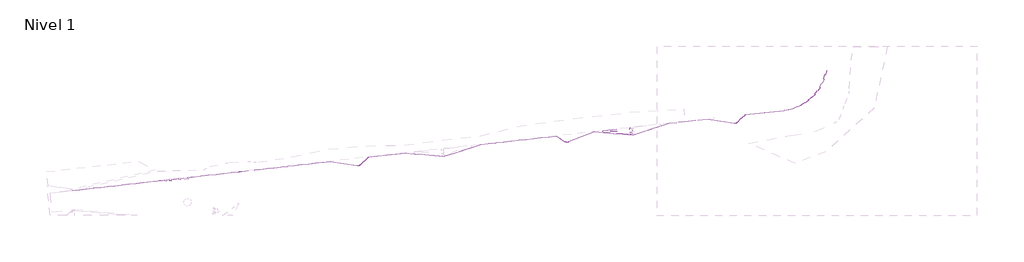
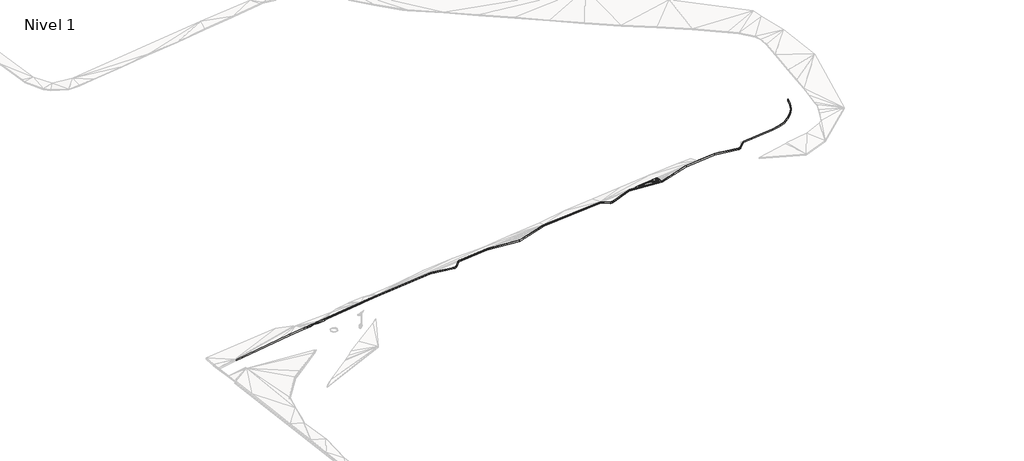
# One storey, part 17 of 45: 2 slabs.
"""IFC4 building model written with IfcOpenShell, lengths in millimetres."""

from ifc_helpers import new_model, si_unit, frame, origin, place, context, project, spatial, polyline, circle_curve, element, save
from ifc_brep_helpers import plane_surface, cylinder_surface, revolved_surface, spline_surface, advanced_brep

model = new_model("IFC4")

# Units and contexts
model_context = context("Model", 3, world=origin())
ifc_project = project(units=[si_unit("LENGTHUNIT", "METRE", prefix="MILLI")], contexts=[model_context])

# Site, building, storey
site = spatial("IfcSite", under=ifc_project)
building = spatial("IfcBuilding", under=site)
storey = spatial("IfcBuildingStorey", under=building, Name="Nivel 1", Elevation=0.0)

# Slabs
placement = place(None, origin())
element("IfcSlab", 1, ObjectType="Lippia", at=placement, inside=storey, context=model_context, shape_type="AdvancedBrep", body=[
    advanced_brep(
    [(-158534.3239063, -86433.6671601, 4450.0), (-158534.3239063, -86433.6671601, 4750.0), (-158434.0696434, -87321.3593961, 4750.0), (-158434.0696434, -87321.3593961, 4450.0), (-158974.9361947, -87875.5304223, 4750.0), (-158974.9361947, -87875.5304223, 4450.0), (-166011.2441823, -87276.3619655, 4750.0), (-166011.2441823, -87276.3619655, 4450.0), (-166016.8279711, -86778.6993142, 4450.0), (-166016.8279711, -86778.6993142, 4750.0), (-159085.0266239, -85995.9455052, 4750.0), (-159085.0266239, -85995.9455052, 4450.0), (-159117.4791214, -87189.0296243, 5050.0), (-159001.8934653, -86701.9804089, 5050.0), (-159117.4791214, -87189.0296243, 4750.0), (-159001.8934653, -86701.9804089, 4750.0), (-160839.1293, -87142.9666538, 5250.0), (-160576.1179062, -87264.5176161, 5250.0), (-160313.1065124, -87386.0685785, 5250.0), (-159968.2089129, -87229.0586351, 5250.0), (-160118.0455949, -86805.531657, 5250.0), (-160399.0017808, -86738.5560605, 5250.0), (-160631.0370495, -86683.2424519, 5250.0), (-160972.9110557, -86835.2265244, 5250.0), (-160839.1293, -87142.9666538, 4950.0), (-160972.9110557, -86835.2265244, 4950.0), (-160631.0370495, -86683.2424519, 4950.0), (-160399.0017808, -86738.5560605, 4950.0), (-160118.0455949, -86805.531657, 4950.0), (-159968.2089129, -87229.0586351, 4950.0), (-160313.1065124, -87386.0685785, 4950.0), (-160576.1179062, -87264.5176161, 4950.0), (-159276.4922979, -86396.2383704, 5050.0), (-159059.1444755, -86477.2147985, 5050.0), (-159276.4922979, -86396.2383704, 4750.0), (-159059.1444755, -86477.2147985, 4750.0), (-159321.3902191, -87489.8917525, 5050.0), (-159321.3902191, -87489.8917525, 4750.0), (-159675.1709573, -87573.1800784, 5050.0), (-162122.6779228, -87237.53023, 5050.0), (-162122.6779228, -87237.53023, 4750.0), (-159675.1709573, -87573.1800784, 4750.0), (-162118.8506074, -86741.6716435, 5050.0), (-162118.8506074, -86741.6716435, 4750.0), (-162338.7031107, -86987.929478, 5050.0), (-162338.7031107, -86987.929478, 4750.0)],
    [
        (0, 1),
        (1, 2),
        (2, 3),
        (3, 0),
        (2, 4, circle_curve(frame((-158930.9144955, -87377.4721033, 4750.0), z_axis=(0.0, 0.0, -1.0), x_axis=(0.19977727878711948, -0.9798413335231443, 0.0)), 499.9999992)),
        (4, 5),
        (5, 3, circle_curve(frame((-158930.9144955, -87377.4721033, 4450.0), z_axis=(0.0, 0.0, 1.0), x_axis=(0.19977727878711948, -0.9798413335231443, 0.0)), 499.9999992)),
        (4, 6),
        (6, 7),
        (7, 5),
        (8, 9),
        (9, 10),
        (10, 11),
        (11, 8),
        (10, 1, circle_curve(frame((-159030.7915935, -86492.9953635, 4750.0), z_axis=(0.0, 0.0, -1.0), x_axis=(0.19977727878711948, -0.9798413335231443, 0.0)), 500.0000001)),
        (0, 11, circle_curve(frame((-159030.7915935, -86492.9953635, 4450.0), z_axis=(0.0, 0.0, 1.0), x_axis=(0.19977727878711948, -0.9798413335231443, 0.0)), 500.0000001)),
        (2, 12),
        (12, 4),
        (1, 13),
        (13, 2),
        (5, 14),
        (14, 3),
        (3, 15),
        (15, 0),
        (16, 17),
        (17, 18),
        (18, 19),
        (19, 20),
        (20, 21),
        (21, 22),
        (22, 23),
        (23, 16),
        (24, 25),
        (25, 26),
        (26, 27),
        (27, 28),
        (28, 29),
        (29, 30),
        (30, 31),
        (31, 24),
        (20, 32),
        (32, 22),
        (10, 32),
        (32, 33),
        (33, 10),
        (19, 32),
        (26, 34),
        (34, 28),
        (11, 35),
        (35, 34),
        (34, 11),
        (34, 29),
        (32, 12),
        (12, 13),
        (13, 33),
        (19, 12),
        (12, 36),
        (36, 4),
        (35, 15),
        (15, 14),
        (14, 34),
        (14, 29),
        (5, 37),
        (37, 14),
        (4, 38),
        (38, 39),
        (39, 4),
        (19, 38),
        (38, 36),
        (36, 19),
        (5, 40),
        (40, 41),
        (41, 5),
        (29, 37),
        (37, 41),
        (41, 29),
        (22, 42),
        (42, 23),
        (23, 39),
        (39, 16),
        (39, 18),
        (25, 43),
        (43, 26),
        (24, 40),
        (40, 25),
        (30, 40),
        (42, 39),
        (40, 43),
        (1, 33),
        (35, 0),
        (10, 42),
        (42, 32),
        (42, 44),
        (44, 39),
        (18, 38),
        (34, 43),
        (43, 11),
        (40, 45),
        (45, 43),
        (41, 30),
        (6, 9, circle_curve(frame((-165990.032126, -87027.2591307, 4750.0), z_axis=(0.0, 0.0, -1.0), x_axis=(0.19977727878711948, -0.9798413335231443, 0.0)), 249.9999994)),
        (8, 7, circle_curve(frame((-165990.032126, -87027.2591307, 4450.0), z_axis=(0.0, 0.0, 1.0), x_axis=(0.19977727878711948, -0.9798413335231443, 0.0)), 249.9999994)),
        (9, 42),
        (9, 44),
        (6, 44),
        (6, 39),
        (43, 8),
        (45, 8),
        (45, 7),
        (40, 7),
    ],
    [
        plane_surface(frame((-158534.3239063, -86433.6671601, 4450.0), z_axis=(0.9936828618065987, 0.11222464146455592, 0.0), x_axis=(0.0, 0.0, 1.0))),
        cylinder_surface(frame((-158930.9144955, -87377.4721033, 4750.0), z_axis=(0.0, 0.0, -1.0), x_axis=(0.19977727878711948, -0.9798413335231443, 0.0)), 499.9999992),
        plane_surface(frame((-158974.9361947, -87875.5304223, 4450.0), z_axis=(-0.08484674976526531, -0.996394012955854, 0.0), x_axis=(0.0, 0.0, 1.0))),
        plane_surface(frame((-166016.8279711, -86778.6993142, 4450.0), z_axis=(-0.11220899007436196, 0.993684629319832, 0.0), x_axis=(0.0, 0.0, 1.0))),
        cylinder_surface(frame((-159030.7915935, -86492.9953635, 4750.0), z_axis=(0.0, 0.0, -1.0), x_axis=(0.19977727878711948, -0.9798413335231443, 0.0)), 500.0000001),
        spline_surface(2, 1, [[(-158974.9361947, -87875.5304223, 4750.0), (-159117.4791214, -87189.0296243, 5050.0)], [(-158738.72128110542, -87896.40866381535, 4750.0), (-159117.4791214, -87189.0296243, 5050.0)], [(-158573.0909333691, -87726.70311210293, 4750.0), (-159117.4791214, -87189.0296243, 5050.0)], [(-158407.46058563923, -87556.99756033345, 4750.0), (-159117.4791214, -87189.0296243, 5050.0)], [(-158434.0730654, -87321.3597826, 4750.0), (-159117.4791214, -87189.0296243, 5050.0)]], [3, 2, 3], [2, 2], [0.0, 1.0, 2.0], [0.0, 1.0], weights=[[1.0, 1.0], [0.9035324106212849, 0.9035324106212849], [1.0, 1.0], [0.9035324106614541, 0.9035324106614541], [1.0, 1.0]]),
        plane_surface(frame((-158656.7623383, -86819.0023217, 4850.0), z_axis=(0.5152351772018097, 0.058189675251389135, 0.8550711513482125), x_axis=(-0.11222464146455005, 0.9936828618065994, 0.0))),
        spline_surface(1, 2, [[(-158974.9361947, -87875.5304223, 4450.0), (-158738.72128110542, -87896.40866381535, 4450.0), (-158573.0909333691, -87726.70311210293, 4450.0), (-158407.46058563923, -87556.99756033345, 4450.0), (-158434.0730654, -87321.3597826, 4450.0)], [(-159117.4791214, -87189.0296243, 4750.0), (-159117.4791214, -87189.0296243, 4750.0), (-159117.4791214, -87189.0296243, 4750.0), (-159117.4791214, -87189.0296243, 4750.0), (-159117.4791214, -87189.0296243, 4750.0)]], [2, 2], [3, 2, 3], [0.0, 1.0], [0.0, 1.0, 2.0], weights=[[1.0, 0.9035324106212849, 1.0, 0.9035324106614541, 1.0], [1.0, 0.9035324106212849, 1.0, 0.9035324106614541, 1.0]]),
        plane_surface(frame((-158656.7623383, -86819.0023217, 4550.0), z_axis=(-0.5152351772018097, -0.058189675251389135, -0.8550711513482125), x_axis=(-0.11222464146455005, 0.9936828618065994, 0.0))),
        plane_surface(frame((-160473.7397376, -87013.6824168, 5250.0), z_axis=(0.0, 0.0, 1.0000000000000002), x_axis=(0.9077477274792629, -0.4195164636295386, 0.0))),
        plane_surface(frame((-160473.7397376, -87013.6824168, 4950.0), z_axis=(0.0, 0.0, -1.0000000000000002), x_axis=(0.9077477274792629, -0.4195164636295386, 0.0))),
        plane_surface(frame((-160008.5249807, -86628.3374931, 5183.3333333), z_axis=(0.0740750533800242, 0.3107377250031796, 0.9476048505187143), x_axis=(0.972742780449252, -0.23188678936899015, 0.0))),
        plane_surface(frame((-159140.2211324, -86289.799558, 4950.0), z_axis=(0.19608016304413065, 0.5262963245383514, 0.8273842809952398), x_axis=(-0.3574625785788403, -0.7473387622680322, 0.5600939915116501))),
        plane_surface(frame((-159787.5822686, -86810.2762208, 5183.3333333), z_axis=(0.19823354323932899, 0.0701316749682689, 0.9776425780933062), x_axis=(0.6282983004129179, 0.7564652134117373, -0.18166349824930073))),
        plane_surface(frame((-160008.5249807, -86628.3374931, 4883.3333333), z_axis=(-0.0740750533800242, -0.3107377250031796, -0.9476048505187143), x_axis=(0.972742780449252, -0.23188678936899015, 0.0))),
        plane_surface(frame((-159140.2211324, -86289.799558, 4650.0), z_axis=(-0.19608016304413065, -0.5262963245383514, -0.8273842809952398), x_axis=(-0.3574625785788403, -0.7473387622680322, 0.5600939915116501))),
        plane_surface(frame((-159787.5822686, -86810.2762208, 4883.3333333), z_axis=(-0.19823354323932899, -0.0701316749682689, -0.9776425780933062), x_axis=(0.6282983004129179, 0.7564652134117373, -0.18166349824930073))),
        plane_surface(frame((-159113.75234, -86691.1158005, 5050.0), z_axis=(0.0, 0.0, 1.0), x_axis=(0.19665708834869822, -0.9804723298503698, 0.0))),
        plane_surface(frame((-159454.0601107, -86938.1088766, 5116.6666667), z_axis=(0.22658973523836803, 0.04544797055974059, 0.9729293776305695), x_axis=(0.9724414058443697, 0.04575585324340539, -0.2286134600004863))),
        plane_surface(frame((-159137.9351784, -87518.1505997, 4950.0), z_axis=(0.4239290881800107, -0.28732046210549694, 0.8589127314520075), x_axis=(-0.18691010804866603, 0.9001775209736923, 0.393376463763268))),
        plane_surface(frame((-158851.14741, -87070.7898098, 4950.0), z_axis=(0.38536750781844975, -0.0914547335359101, 0.9182199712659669), x_axis=(-0.6364177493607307, 0.6942008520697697, 0.33624042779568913))),
        plane_surface(frame((-159113.75234, -86691.1158005, 4750.0), z_axis=(0.0, 0.0, -1.0), x_axis=(0.19665708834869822, -0.9804723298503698, 0.0))),
        plane_surface(frame((-159454.0601107, -86938.1088766, 4816.6666667), z_axis=(-0.22658973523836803, -0.04544797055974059, -0.9729293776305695), x_axis=(0.9724414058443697, 0.04575585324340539, -0.2286134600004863))),
        plane_surface(frame((-159137.9351784, -87518.1505997, 4650.0), z_axis=(-0.4239290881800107, 0.28732046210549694, -0.8589127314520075), x_axis=(-0.18691010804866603, 0.9001775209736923, 0.393376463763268))),
        plane_surface(frame((-158851.14741, -87070.7898098, 4650.0), z_axis=(-0.38536750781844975, 0.0914547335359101, -0.9182199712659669), x_axis=(-0.6364177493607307, 0.6942008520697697, 0.33624042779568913))),
        plane_surface(frame((-160257.595025, -87562.0802436, 4950.0), z_axis=(-0.11228174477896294, -0.8187411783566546, 0.5630769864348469), x_axis=(-0.8543614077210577, 0.36889980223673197, 0.36603213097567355))),
        plane_surface(frame((-159654.9233631, -87430.7101553, 5116.6666667), z_axis=(0.10205074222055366, -0.4334771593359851, 0.8953676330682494), x_axis=(0.5928847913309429, -0.6962387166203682, -0.4046470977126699))),
        plane_surface(frame((-160257.595025, -87562.0802436, 4650.0), z_axis=(0.11228174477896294, 0.8187411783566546, -0.5630769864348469), x_axis=(-0.8543614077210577, 0.36889980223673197, 0.36603213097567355))),
        plane_surface(frame((-159654.9233631, -87430.7101553, 4816.6666667), z_axis=(-0.10205074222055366, 0.4334771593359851, -0.8953676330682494), x_axis=(0.5928847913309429, -0.6962387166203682, -0.4046470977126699))),
        plane_surface(frame((-161240.9329042, -86753.3802066, 5183.3333333), z_axis=(-0.1386028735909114, 0.3117742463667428, 0.9399925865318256), x_axis=(0.9137717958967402, 0.40622789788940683, 0.0))),
        plane_surface(frame((-161311.5727595, -87071.9078027, 5183.3333333), z_axis=(-0.14897699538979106, -0.0647637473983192, 0.9867175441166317), x_axis=(-0.3986802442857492, 0.9170899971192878, 0.0))),
        plane_surface(frame((-161091.6379117, -87255.5218207, 5183.3333333), z_axis=(-0.12798666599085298, -0.2769369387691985, 0.9523262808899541), x_axis=(-0.9854694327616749, -0.07260302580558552, -0.15355389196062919))),
        plane_surface(frame((-161240.9329042, -86753.3802066, 4883.3333333), z_axis=(0.1386028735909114, -0.3117742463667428, -0.9399925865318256), x_axis=(0.9137717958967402, 0.40622789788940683, 0.0))),
        plane_surface(frame((-161311.5727595, -87071.9078027, 4883.3333333), z_axis=(0.14897699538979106, 0.0647637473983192, -0.9867175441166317), x_axis=(-0.3986802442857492, 0.9170899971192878, 0.0))),
        plane_surface(frame((-161091.6379117, -87255.5218207, 4883.3333333), z_axis=(0.12798666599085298, 0.2769369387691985, -0.9523262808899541), x_axis=(-0.9854694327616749, -0.07260302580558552, -0.15355389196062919))),
        plane_surface(frame((-161738.1465286, -86938.1427993, 5116.6666667), z_axis=(-0.1718251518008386, 0.001326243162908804, 0.9851265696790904), x_axis=(-0.9819385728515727, 0.08016578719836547, -0.17137702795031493))),
        plane_surface(frame((-161738.1465286, -86938.1427993, 4816.6666667), z_axis=(0.1718251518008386, -0.001326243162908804, -0.9851265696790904), x_axis=(-0.9819385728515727, 0.08016578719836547, -0.17137702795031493))),
        plane_surface(frame((-158865.1206157, -86537.6207892, 4950.0), z_axis=(0.4847281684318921, 0.12346718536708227, 0.8659067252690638), x_axis=(-0.8659261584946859, -0.07185129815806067, 0.49498411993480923))),
        spline_surface(2, 1, [[(-158534.3239063, -86433.6671601, 4750.0), (-159059.1444755, -86477.2147985, 5050.0)], [(-158593.04693133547, -85942.26370017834, 4750.0), (-159059.1444755, -86477.2147985, 5050.0)], [(-159085.0266239, -85995.9455052, 4750.0), (-159059.1444755, -86477.2147985, 5050.0)]], [3, 3], [2, 2], [0.0, 1.0], [0.0, 1.0], weights=[[1.0, 1.0], [0.7107223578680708, 0.7107223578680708], [1.0, 1.0]]),
        plane_surface(frame((-158865.1206157, -86537.6207892, 4650.0), z_axis=(-0.4847281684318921, -0.12346718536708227, -0.8659067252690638), x_axis=(-0.8659261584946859, -0.07185129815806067, 0.49498411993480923))),
        spline_surface(1, 2, [[(-158534.3239063, -86433.6671601, 4450.0), (-158593.04693133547, -85942.26370017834, 4450.0), (-159085.0266239, -85995.9455052, 4450.0)], [(-159059.1444755, -86477.2147985, 4750.0), (-159059.1444755, -86477.2147985, 4750.0), (-159059.1444755, -86477.2147985, 4750.0)]], [2, 2], [3, 3], [0.0, 1.0], [0.0, 1.0], weights=[[1.0, 0.7107223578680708, 1.0], [1.0, 0.7107223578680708, 1.0]]),
        plane_surface(frame((-159469.0260845, -87302.660004, 5116.6666667), z_axis=(0.23301685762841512, -0.15792856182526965, 0.9595632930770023), x_axis=(0.8914996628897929, -0.3595020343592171, -0.27565674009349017))),
        plane_surface(frame((-159469.0260845, -87302.660004, 4816.6666667), z_axis=(-0.23301685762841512, 0.15792856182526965, -0.9595632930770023), x_axis=(0.8914996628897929, -0.3595020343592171, -0.27565674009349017))),
        plane_surface(frame((-160160.1231764, -86377.9518397, 4950.0), z_axis=(-0.07545450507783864, 0.6208687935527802, 0.7802746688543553), x_axis=(-0.966647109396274, -0.23760574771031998, 0.09558699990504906))),
        plane_surface(frame((-162193.410547, -86989.0437838, 5050.0), z_axis=(0.0, 0.0, 1.0000000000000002), x_axis=(0.007718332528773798, 0.9999702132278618, 0.0))),
        plane_surface(frame((-159985.4954609, -87396.1024306, 5183.3333333), z_axis=(0.17320584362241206, -0.380474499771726, 0.9084266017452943), x_axis=(-0.9101294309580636, -0.4143240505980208, 0.0))),
        plane_surface(frame((-159323.832457, -87646.2007511, 4950.0), z_axis=(0.12618698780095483, -0.5359997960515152, 0.8347341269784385), x_axis=(-0.578430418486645, 0.6438520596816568, 0.5008720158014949))),
        plane_surface(frame((-160160.1231764, -86377.9518397, 4650.0), z_axis=(0.07545450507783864, -0.6208687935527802, -0.7802746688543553), x_axis=(-0.966647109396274, -0.23760574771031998, 0.09558699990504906))),
        plane_surface(frame((-162193.410547, -86989.0437838, 4750.0), z_axis=(0.0, 0.0, -1.0000000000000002), x_axis=(0.007718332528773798, 0.9999702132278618, 0.0))),
        plane_surface(frame((-159985.4954609, -87396.1024306, 4883.3333333), z_axis=(-0.17320584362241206, 0.380474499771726, -0.9084266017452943), x_axis=(-0.9101294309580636, -0.4143240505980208, 0.0))),
        plane_surface(frame((-159323.832457, -87646.2007511, 4650.0), z_axis=(-0.12618698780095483, 0.5359997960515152, -0.8347341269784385), x_axis=(-0.578430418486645, 0.6438520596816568, 0.5008720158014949))),
        plane_surface(frame((-160675.4599849, -86607.0508219, 5116.6666667), z_axis=(-0.10310957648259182, 0.8484253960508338, 0.5191750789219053), x_axis=(0.9682329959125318, 0.20515145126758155, -0.14296065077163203))),
        plane_surface(frame((-160675.4599849, -86607.0508219, 4816.6666667), z_axis=(0.10310957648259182, -0.8484253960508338, -0.5191750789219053), x_axis=(0.9682329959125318, 0.20515145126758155, -0.14296065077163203))),
        plane_surface(frame((-160703.6517975, -87398.9262956, 5116.6666667), z_axis=(-0.121838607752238, -0.8884283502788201, 0.44254990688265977), x_axis=(-0.9906559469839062, 0.0813178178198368, -0.109490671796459))),
        plane_surface(frame((-160703.6517975, -87398.9262956, 4816.6666667), z_axis=(0.121838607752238, 0.8884283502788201, -0.44254990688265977), x_axis=(-0.9906559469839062, 0.0813178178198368, -0.109490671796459))),
        cylinder_surface(frame((-165990.032126, -87027.2591307, 4750.0), z_axis=(0.0, 0.0, -1.0), x_axis=(0.19977727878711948, -0.9798413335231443, 0.0)), 249.9999994),
        plane_surface(frame((-162406.9017341, -86505.438821, 4850.0), z_axis=(-0.06726142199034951, 0.5956442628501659, 0.8004272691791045), x_axis=(-0.9936846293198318, -0.1122089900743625, 0.0))),
        plane_surface(frame((-163491.4605631, -86836.1001452, 4950.0), z_axis=(-0.07720443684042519, 0.06892608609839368, 0.9946299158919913), x_axis=(-0.997006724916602, -0.00947076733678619, -0.07673262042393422))),
        spline_surface(2, 1, [[(-166016.8279711, -86778.6993142, 4750.0), (-162338.7031107, -86987.929478, 5050.0)], [(-166242.5638565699, -86803.03463881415, 4750.0), (-162338.7031107, -86987.929478, 5050.0)], [(-166240.0163883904, -87030.06417085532, 4750.0), (-162338.7031107, -86987.929478, 5050.0)], [(-166237.46892024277, -87257.09370289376, 4750.0), (-162338.7031107, -86987.929478, 5050.0)], [(-166011.2438133, -87276.3576333, 4750.0), (-162338.7031107, -86987.929478, 5050.0)]], [3, 2, 3], [2, 2], [0.0, 1.0, 2.0], [0.0, 1.0], weights=[[1.0, 1.0], [0.7402773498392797, 0.7402773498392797], [1.0, 1.0], [0.740277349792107, 0.740277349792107], [1.0, 1.0]]),
        plane_surface(frame((-163490.8750719, -87167.2738912, 4950.0), z_axis=(-0.07609981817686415, -0.0658630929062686, 0.9949225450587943), x_axis=(-0.6544192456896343, 0.7561319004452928, 0.0))),
        plane_surface(frame((-162369.6194333, -87463.1408726, 4850.0), z_axis=(-0.053556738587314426, -0.6289411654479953, 0.7756060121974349), x_axis=(-0.9758236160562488, 0.1977848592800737, 0.09300225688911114))),
        plane_surface(frame((-162406.9017341, -86505.438821, 4550.0), z_axis=(0.06726142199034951, -0.5956442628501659, -0.8004272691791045), x_axis=(-0.9936846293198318, -0.1122089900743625, 0.0))),
        plane_surface(frame((-163491.4605631, -86836.1001452, 4650.0), z_axis=(0.07720443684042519, -0.06892608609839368, -0.9946299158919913), x_axis=(-0.997006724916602, -0.00947076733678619, -0.07673262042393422))),
        spline_surface(1, 2, [[(-166016.8279711, -86778.6993142, 4450.0), (-166242.5638565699, -86803.03463881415, 4450.0), (-166240.0163883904, -87030.06417085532, 4450.0), (-166237.46892024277, -87257.09370289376, 4450.0), (-166011.2438133, -87276.3576333, 4450.0)], [(-162338.7031107, -86987.929478, 4750.0), (-162338.7031107, -86987.929478, 4750.0), (-162338.7031107, -86987.929478, 4750.0), (-162338.7031107, -86987.929478, 4750.0), (-162338.7031107, -86987.929478, 4750.0)]], [2, 2], [3, 2, 3], [0.0, 1.0], [0.0, 1.0, 2.0], weights=[[1.0, 0.7402773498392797, 1.0, 0.740277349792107, 1.0], [1.0, 0.7402773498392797, 1.0, 0.740277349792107, 1.0]]),
        plane_surface(frame((-163490.8750719, -87167.2738912, 4650.0), z_axis=(0.07609981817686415, 0.0658630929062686, -0.9949225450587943), x_axis=(-0.6544192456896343, 0.7561319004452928, 0.0))),
        plane_surface(frame((-162369.6194333, -87463.1408726, 4550.0), z_axis=(0.053556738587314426, 0.6289411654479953, -0.7756060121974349), x_axis=(-0.9758236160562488, 0.1977848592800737, 0.09300225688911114))),
    ],
    [
        (0, [[1, 2, 3, 4]]),
        (1, [[-3, 5, 6, 7]]),
        (2, [[-6, 8, 9, 10]]),
        (3, [[11, 12, 13, 14]]),
        (4, [[-13, 15, -1, 16]]),
        (5, [[-5, 17, 18]]),
        (6, [[-2, 19, 20]]),
        (7, [[21, 22, -7]]),
        (8, [[23, 24, -4]]),
        (9, [[25, 26, 27, 28, 29, 30, 31, 32]]),
        (10, [[33, 34, 35, 36, 37, 38, 39, 40]]),
        (11, [[-29, 41, 42, -30]]),
        (12, [[43, 44, 45]]),
        (13, [[46, -41, -28]]),
        (14, [[-35, 47, 48, -36]]),
        (15, [[49, 50, 51]]),
        (16, [[-37, -48, 52]]),
        (17, [[53, 54, 55, -44]]),
        (18, [[56, -53, -46]]),
        (19, [[-18, 57, 58]]),
        (20, [[-20, -54, -17]]),
        (21, [[-50, 59, 60, 61]]),
        (22, [[-52, -61, 62]]),
        (23, [[63, 64, -21]]),
        (24, [[-22, -60, -23]]),
        (25, [[65, 66, 67]]),
        (26, [[68, 69, 70]]),
        (27, [[71, 72, 73]]),
        (28, [[74, 75, 76]]),
        (29, [[-31, 77, 78]]),
        (30, [[-32, 79, 80]]),
        (31, [[-80, 81, -26, -25]]),
        (32, [[82, 83, -34]]),
        (33, [[84, 85, -33]]),
        (34, [[-40, -39, 86, -84]]),
        (35, [[-78, 87, -79]]),
        (36, [[-85, 88, -82]]),
        (37, [[89, -55, -19]]),
        (38, [[-45, -89, -15]]),
        (39, [[-24, -59, 90]]),
        (40, [[-16, -90, -49]]),
        (41, [[-70, -57, -56]]),
        (42, [[-62, -64, -74]]),
        (43, [[91, 92, -43]]),
        (44, [[-87, 93, 94]]),
        (45, [[-27, 95, -68]]),
        (46, [[-58, -69, -65]]),
        (47, [[-51, 96, 97]]),
        (48, [[98, 99, -88]]),
        (49, [[-76, 100, -38]]),
        (50, [[-73, -75, -63]]),
        (51, [[-42, -92, -77]]),
        (52, [[-83, -96, -47]]),
        (53, [[-81, -66, -95]]),
        (54, [[-100, -72, -86]]),
        (55, [[-9, 101, -11, 102]]),
        (56, [[-12, 103, -91]]),
        (57, [[-103, 104, -93]]),
        (58, [[-104, -101, 105]]),
        (59, [[-94, -105, 106]]),
        (60, [[-67, -106, -8]]),
        (61, [[-97, 107, -14]]),
        (62, [[-99, 108, -107]]),
        (63, [[109, -102, -108]]),
        (64, [[110, -109, -98]]),
        (65, [[-10, -110, -71]]),
    ],
),
])
element("IfcSlab", 2, ObjectType="Bordillo", at=placement, inside=storey, context=model_context, shape_type="AdvancedBrep", body=[
    advanced_brep(
    [(-262086.3507826, -97626.5607096, 4635.9), (-262086.3507826, -97626.5607096, 5035.9), (-261341.9584895, -97542.5128797, 5051.6), (-256639.8556291, -97011.6079454, 5150.0093923), (-238079.1529226, -94915.9565011, 5150.0), (-238079.1529226, -94915.9565011, 4750.0), (-256639.855435, -97011.6079235, 4750.0), (-261341.9579071, -97542.5128139, 4651.5718231), (-230870.7024228, -95994.4989274, 5150.0), (-230870.7024228, -95994.4989274, 4750.0), (-230048.2835481, -95706.2110838, 4750.0), (-230048.2835481, -95706.2110838, 5150.0), (-228146.5474849, -93794.4860881, 5150.0), (-228146.5474849, -93794.4860881, 4750.0), (-218256.9006369, -92677.8660426, 5150.0), (-218256.9006369, -92677.8660426, 4750.0), (-208047.434525, -93545.752204, 5150.0), (-208047.434525, -93545.752204, 4750.0), (-198304.9550274, -90425.1321728, 5150.0), (-198304.9550274, -90425.1321728, 4750.0), (-178461.8157952, -88184.6834114, 4750.0), (-178461.8157952, -88184.6834114, 4350.0), (-176181.2896774, -89624.81125, 4750.0), (-176181.2896774, -89624.81125, 4350.0), (-175321.6375462, -89723.7919042, 4350.0), (-175321.6375462, -89723.7919042, 4750.0), (-168525.6236363, -87062.1479559, 4750.0), (-168525.6236363, -87062.1479559, 4350.0), (-158364.3554967, -87927.3974676, 4750.0), (-158364.3554967, -87927.3974676, 4350.0), (-148656.565981, -84819.4328706, 4750.0), (-148656.565981, -84819.4328706, 4350.0), (-144640.0088459, -84365.9315192, 4750.0), (-144640.0088459, -84365.9315192, 4350.0), (-138710.5297071, -83696.4460083, 4750.0), (-138710.5297071, -83696.4460083, 4350.0), (-131502.0568217, -84774.9930904, 4750.0), (-131502.0568217, -84774.9930904, 4350.0), (-130678.0934701, -84485.1151833, 4350.0), (-130678.0934701, -84485.1151833, 4750.0), (-128777.940236, -82574.9773961, 4750.0), (-128777.940236, -82574.9773961, 4350.0), (-118419.1283796, -81405.3848753, 4750.0), (-118419.1283796, -81405.3848753, 4350.0), (-107362.8341595, -70928.7793868, 4750.0), (-107362.8341595, -70928.7793868, 4350.0), (-107214.9025915, -70953.6037928, 4750.0), (-107214.9025915, -70953.6037928, 4350.0), (-118402.2991163, -81554.4378043, 4750.0), (-118402.2991163, -81554.4378043, 4350.0), (-128708.7204807, -82718.1150184, 4750.0), (-128708.7204807, -82718.1150184, 4350.0), (-130571.5140757, -84590.6653264, 4750.0), (-130571.5140757, -84590.6653264, 4350.0), (-131531.1450666, -84922.5818206, 4350.0), (-131531.1450666, -84922.5818206, 4750.0), (-138717.5028028, -83848.1864096, 4750.0), (-138717.5028028, -83848.1864096, 4350.0), (-148620.0508062, -84966.2630985, 4750.0), (-148620.0508062, -84966.2630985, 4350.0), (-158346.9537583, -88080.1897956, 4750.0), (-158346.9537583, -88080.1897956, 4350.0), (-168502.8412872, -87215.1614031, 4750.0), (-168502.8412872, -87215.1614031, 4350.0), (-175237.4029107, -89852.5086384, 4750.0), (-175237.4029107, -89852.5086384, 4350.0), (-176262.4992017, -89750.934853, 4350.0), (-176262.4992017, -89750.934853, 4750.0), (-178497.7659068, -88339.6955483, 4750.0), (-178497.7659068, -88339.6955483, 4350.0), (-198305.2031879, -90576.1132746, 5150.0), (-198305.2031879, -90576.1132746, 4750.0), (-208031.2629094, -93689.9454588, 5150.0), (-208031.2629094, -93689.9454588, 4750.0), (-218205.7588252, -92823.0448064, 5150.0), (-218205.7588252, -92823.0448064, 4750.0), (-228077.3448086, -93937.6256361, 5150.0), (-228077.3448086, -93937.6256361, 4750.0), (-229941.947202, -95812.0009047, 5150.0), (-229941.947202, -95812.0009047, 4750.0), (-230899.8683165, -96142.0776796, 4750.0), (-230899.8683165, -96142.0776796, 5150.0), (-238086.1272304, -95067.6970386, 5150.0), (-238086.1272304, -95067.6970386, 4750.0), (-256623.0261704, -97160.6608477, 5150.0), (-261325.1294191, -97691.5658258, 5051.5718069), (-262069.521518, -97775.6136338, 5035.9280625), (-262069.521518, -97775.6136338, 4635.9280625), (-261325.129225, -97691.5658039, 4651.5624146), (-256623.0263646, -97160.6608696, 4750.0093923), (-274160.3192275, -99140.761176, 4779.0369673), (-274160.3192275, -99140.761176, 4379.0369673), (-275324.6939131, -99523.8168292, 4785.3013105), (-275324.6939131, -99523.8168292, 4385.3013105), (-277411.4347839, -99759.4265707, 4728.8869417), (-277411.4347839, -99759.4265707, 4328.8869417), (-278631.907038, -99645.639182, 4674.4065109), (-278631.907038, -99645.639182, 4274.4065109), (-279796.2821969, -100028.6949801, 4665.529391), (-279796.2821969, -100028.6949801, 4265.529391), (-281068.2007539, -100172.3047615, 4633.801107), (-281068.2007539, -100172.3047615, 4233.801107), (-282288.8738536, -100058.5399086, 4586.7165154), (-282288.8738536, -100058.5399086, 4186.7165154), (-287307.6096924, -100625.1951809, 4465.4173154), (-306040.9861686, -102740.3428716, 3529.1119057), (-306040.9861686, -102740.3428716, 3129.1119057), (-287307.6093964, -100625.1951475, 4065.4023765), (-306057.815317, -102591.2899272, 3529.1023764), (-306057.815317, -102591.2899272, 3129.1023764), (-287324.4381923, -100476.1421664, 4465.3928707), (-282305.7032325, -99909.4869422, 4586.6942282), (-281113.0783122, -99774.8300721, 4633.7934149), (-279841.1605037, -99631.2204022, 4665.5098549), (-278648.7364315, -99496.5862095, 4674.3986952), (-277456.3128498, -99361.9520721, 4728.8969573), (-275369.5719508, -99126.3423734, 4785.2939881), (-274177.1483266, -98991.7082312, 4779.0324219), (-274177.1484922, -98991.70825, 4379.0), (-275369.5726081, -99126.3424476, 4385.2027344), (-277456.3134682, -99361.952142, 4328.9180358), (-278648.736853, -99496.5862571, 4274.4091282), (-279841.1602897, -99631.2203781, 4265.5039145), (-281113.0778404, -99774.8300189, 4233.7704354), (-282305.7041402, -99909.4870447, 4186.7197553), (-287324.4384064, -100476.1421905, 4065.3942282)],
    [
        (0, 1),
        (1, 2),
        (2, 3),
        (3, 4),
        (4, 5),
        (5, 6),
        (6, 7),
        (7, 0),
        (4, 8),
        (8, 9),
        (9, 5),
        (10, 11),
        (11, 12),
        (12, 13),
        (13, 10),
        (12, 14),
        (14, 15),
        (15, 13),
        (14, 16),
        (16, 17),
        (17, 15),
        (16, 18),
        (18, 19),
        (19, 17),
        (18, 20),
        (20, 21),
        (21, 19),
        (20, 22),
        (22, 23),
        (23, 21),
        (24, 25),
        (25, 26),
        (26, 27),
        (27, 24),
        (26, 28),
        (28, 29),
        (29, 27),
        (28, 30),
        (30, 31),
        (31, 29),
        (30, 32),
        (32, 33),
        (33, 31),
        (32, 34),
        (34, 35),
        (35, 33),
        (34, 36),
        (36, 37),
        (37, 35),
        (38, 39),
        (39, 40),
        (40, 41),
        (41, 38),
        (40, 42),
        (42, 43),
        (43, 41),
        (42, 44, circle_curve(frame((-119838.3964101, -68835.2544749, 4750.0), z_axis=(0.0, 0.0, 1.0), x_axis=(1.0, 0.0, 0.0)), 12650.0000009)),
        (44, 45),
        (45, 43, circle_curve(frame((-119838.3964101, -68835.2544749, 4350.0), z_axis=(0.0, 0.0, -1.0), x_axis=(1.0, 0.0, 0.0)), 12650.0000009)),
        (44, 46),
        (46, 47),
        (47, 45),
        (46, 48, circle_curve(frame((-119838.3964094, -68835.2544749, 4750.0), z_axis=(0.0, 0.0, -1.0), x_axis=(1.0, 0.0, 0.0)), 12800.0)),
        (48, 49),
        (49, 47, circle_curve(frame((-119838.3964094, -68835.2544749, 4350.0), z_axis=(0.0, 0.0, 1.0), x_axis=(1.0, 0.0, 0.0)), 12800.0)),
        (48, 50),
        (50, 51),
        (51, 49),
        (50, 52),
        (52, 53),
        (53, 51),
        (54, 55),
        (55, 56),
        (56, 57),
        (57, 54),
        (56, 58),
        (58, 59),
        (59, 57),
        (58, 60),
        (60, 61),
        (61, 59),
        (60, 62),
        (62, 63),
        (63, 61),
        (62, 64),
        (64, 65),
        (65, 63),
        (66, 67),
        (67, 68),
        (68, 69),
        (69, 66),
        (68, 70),
        (70, 71),
        (71, 69),
        (70, 72),
        (72, 73),
        (73, 71),
        (72, 74),
        (74, 75),
        (75, 73),
        (74, 76),
        (76, 77),
        (77, 75),
        (76, 78),
        (78, 79),
        (79, 77),
        (80, 81),
        (81, 82),
        (82, 83),
        (83, 80),
        (82, 84),
        (84, 85),
        (85, 86),
        (86, 87),
        (87, 88),
        (88, 89),
        (89, 83),
        (86, 90),
        (90, 91),
        (91, 87),
        (90, 92),
        (92, 93),
        (93, 91),
        (92, 94),
        (94, 95),
        (95, 93),
        (94, 96),
        (96, 97),
        (97, 95),
        (96, 98),
        (98, 99),
        (99, 97),
        (98, 100),
        (100, 101),
        (101, 99),
        (100, 102),
        (102, 103),
        (103, 101),
        (102, 104),
        (104, 105),
        (105, 106),
        (106, 107),
        (107, 103),
        (105, 108),
        (108, 109),
        (109, 106),
        (108, 110),
        (110, 111),
        (111, 112),
        (112, 113),
        (113, 114),
        (114, 115),
        (115, 116),
        (116, 117),
        (117, 1),
        (0, 118),
        (118, 119),
        (119, 120),
        (120, 121),
        (121, 122),
        (122, 123),
        (123, 124),
        (124, 125),
        (125, 109),
        (104, 110),
        (125, 107),
        (8, 11, circle_curve(frame((-230757.2426726, -95000.9563336, 5150.0), z_axis=(0.0, 0.0, 1.0), x_axis=(1.0, 0.0, 0.0)), 1000.0000003)),
        (10, 9, circle_curve(frame((-230757.2426726, -95000.9563336, 4750.0), z_axis=(0.0, 0.0, -1.0), x_axis=(1.0, 0.0, 0.0)), 1000.0000003)),
        (78, 81, circle_curve(frame((-230757.2426726, -95000.9563336, 5150.0), z_axis=(0.0, 0.0, -1.0), x_axis=(1.0, 0.0, 0.0)), 1150.0000003)),
        (80, 79, circle_curve(frame((-230757.2426726, -95000.9563336, 4750.0), z_axis=(0.0, 0.0, 1.0), x_axis=(1.0, 0.0, 0.0)), 1150.0000003)),
        (22, 25, circle_curve(frame((-175648.339713, -88778.6651517, 4750.0), z_axis=(0.0, 0.0, 1.0), x_axis=(1.0, 0.0, 0.0)), 999.9994421)),
        (24, 23, circle_curve(frame((-175648.339713, -88778.6651517, 4350.0), z_axis=(0.0, 0.0, -1.0), x_axis=(1.0, 0.0, 0.0)), 999.9994421)),
        (64, 67, circle_curve(frame((-175648.5652766, -88778.5228336, 4750.0), z_axis=(0.0, 0.0, -1.0), x_axis=(1.0, 0.0, 0.0)), 1149.9999999)),
        (66, 65, circle_curve(frame((-175648.5652766, -88778.5228336, 4350.0), z_axis=(0.0, 0.0, 1.0), x_axis=(1.0, 0.0, 0.0)), 1149.9999999)),
        (36, 39, circle_curve(frame((-131388.622766, -83781.4475628, 4750.0), z_axis=(0.0, 0.0, 1.0), x_axis=(1.0, 0.0, 0.0)), 1000.0000003)),
        (38, 37, circle_curve(frame((-131388.622766, -83781.4475628, 4350.0), z_axis=(0.0, 0.0, -1.0), x_axis=(1.0, 0.0, 0.0)), 1000.0000003)),
        (52, 55, circle_curve(frame((-131388.622766, -83781.4475628, 4750.0), z_axis=(0.0, 0.0, -1.0), x_axis=(1.0, 0.0, 0.0)), 1150.0000003)),
        (54, 53, circle_curve(frame((-131388.622766, -83781.4475628, 4350.0), z_axis=(0.0, 0.0, 1.0), x_axis=(1.0, 0.0, 0.0)), 1150.0000003)),
        (70, 18),
        (3, 84),
        (68, 18),
        (68, 20),
        (89, 6),
        (19, 71),
        (19, 69),
        (21, 69),
        (94, 115),
        (114, 96),
        (86, 117),
        (117, 90),
        (97, 121),
        (120, 95),
        (91, 118),
        (118, 87),
        (100, 112),
        (111, 102),
        (98, 113),
        (103, 124),
        (123, 101),
        (122, 99),
        (92, 116),
        (119, 93),
        (86, 1),
        (0, 87),
        (85, 1),
        (0, 88),
        (85, 2),
        (7, 88),
    ],
    [
        plane_surface(frame((-262086.3507826, -97626.5607096, 4350.0), z_axis=(-0.11219510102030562, 0.9936861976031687, 0.0), x_axis=(0.0, 0.0, 1.0))),
        plane_surface(frame((-238079.1529226, -94915.9565011, 4350.0), z_axis=(0.147974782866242, 0.9889911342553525, 0.0), x_axis=(0.0, 0.0, 1.0))),
        plane_surface(frame((-230048.2835481, -95706.2110838, 4350.0), z_axis=(-0.7089565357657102, 0.705252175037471, 0.0), x_axis=(0.0, 0.0, 1.0))),
        plane_surface(frame((-228146.5474849, -93794.4860881, 4350.0), z_axis=(-0.11219510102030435, 0.9936861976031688, 0.0), x_axis=(0.0, 0.0, 1.0))),
        plane_surface(frame((-218256.9006369, -92677.8660426, 4350.0), z_axis=(0.08470249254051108, 0.9964062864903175, 0.0), x_axis=(0.0, 0.0, 1.0))),
        plane_surface(frame((-208047.434525, -93545.752204, 4350.0), z_axis=(-0.30504408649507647, 0.95233823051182, 0.0), x_axis=(0.0, 0.0, 1.0))),
        plane_surface(frame((-198304.9550274, -90425.1321728, 4350.0), z_axis=(-0.1121951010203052, 0.9936861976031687, 0.0), x_axis=(0.0, 0.0, 1.0))),
        plane_surface(frame((-178461.8157952, -88184.6834114, 4350.0), z_axis=(0.5339388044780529, 0.8455231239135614, 0.0), x_axis=(0.0, 0.0, 1.0))),
        plane_surface(frame((-175321.6375462, -89723.7919042, 4350.0), z_axis=(-0.3646766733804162, 0.9311342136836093, 0.0), x_axis=(0.0, 0.0, 1.0))),
        plane_surface(frame((-168525.6236363, -87062.1479559, 4350.0), z_axis=(0.08484468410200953, 0.9963941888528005, 0.0), x_axis=(0.0, 0.0, 1.0))),
        plane_surface(frame((-158364.3554967, -87927.3974676, 4350.0), z_axis=(-0.30490671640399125, 0.9523822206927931, 0.0), x_axis=(0.0, 0.0, 1.0))),
        plane_surface(frame((-148656.565981, -84819.4328706, 4350.0), z_axis=(-0.11219510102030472, 0.9936861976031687, 0.0), x_axis=(0.0, 0.0, 1.0))),
        plane_surface(frame((-144640.0088459, -84365.9315192, 4350.0), z_axis=(-0.11219510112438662, 0.9936861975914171, 0.0), x_axis=(0.0, 0.0, 1.0))),
        plane_surface(frame((-138710.5297071, -83696.4460083, 4350.0), z_axis=(0.14797495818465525, 0.9889911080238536, 0.0), x_axis=(0.0, 0.0, 1.0))),
        plane_surface(frame((-130678.0934701, -84485.1151833, 4350.0), z_axis=(-0.7089572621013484, 0.7052514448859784, 0.0), x_axis=(0.0, 0.0, 1.0))),
        plane_surface(frame((-128777.940236, -82574.9773961, 4350.0), z_axis=(-0.1121951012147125, 0.9936861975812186, 0.0), x_axis=(0.0, 0.0, 1.0))),
        revolved_surface(polyline([(-107188.39640920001, -68835.2544749, 4750.0), (-107188.39640920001, -68835.2544749, 4350.0)]), (-119838.3964101, -68835.2544749, 4750.0), (0.0, 0.0, 1.0)),
        plane_surface(frame((-107362.8341595, -70928.7793868, 4350.0), z_axis=(0.16549603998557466, 0.9862104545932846, 0.0), x_axis=(0.0, 0.0, 1.0))),
        cylinder_surface(frame((-119838.3964094, -68835.2544749, 4750.0), z_axis=(0.0, 0.0, -1.0), x_axis=(1.0, 0.0, 0.0)), 12800.0),
        plane_surface(frame((-118402.2991163, -81554.4378043, 4350.0), z_axis=(0.11219510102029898, -0.9936861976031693, 0.0), x_axis=(0.0, 0.0, 1.0))),
        plane_surface(frame((-128708.7204807, -82718.1150184, 4350.0), z_axis=(0.708951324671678, -0.7052574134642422, 0.0), x_axis=(0.0, 0.0, 1.0))),
        plane_surface(frame((-131531.1450666, -84922.5818206, 4350.0), z_axis=(-0.1478615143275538, -0.9890080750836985, 0.0), x_axis=(0.0, 0.0, 1.0))),
        plane_surface(frame((-138717.5028028, -83848.1864096, 4350.0), z_axis=(0.11219510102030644, -0.9936861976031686, 0.0), x_axis=(0.0, 0.0, 1.0))),
        plane_surface(frame((-148620.0508062, -84966.2630985, 4350.0), z_axis=(0.3048927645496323, -0.9523866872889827, 0.0), x_axis=(0.0, 0.0, 1.0))),
        plane_surface(frame((-158346.9537583, -88080.1897956, 4350.0), z_axis=(-0.08486777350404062, -0.99639222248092, 0.0), x_axis=(0.0, 0.0, 1.0))),
        plane_surface(frame((-168502.8412872, -87215.1614031, 4350.0), z_axis=(0.36464921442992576, -0.9311449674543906, 0.0), x_axis=(0.0, 0.0, 1.0))),
        plane_surface(frame((-176262.4992017, -89750.934853, 4350.0), z_axis=(-0.5338555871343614, -0.8455756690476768, 0.0), x_axis=(0.0, 0.0, 1.0))),
        plane_surface(frame((-178497.7659068, -88339.6955483, 4350.0), z_axis=(0.11219510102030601, -0.9936861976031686, 0.0), x_axis=(0.0, 0.0, 1.0))),
        plane_surface(frame((-198305.2031879, -90576.1132746, 4350.0), z_axis=(0.3049083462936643, -0.9523816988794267, 0.0), x_axis=(0.0, 0.0, 1.0))),
        plane_surface(frame((-208031.2629094, -93689.9454588, 4350.0), z_axis=(-0.08489570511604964, -0.996389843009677, 0.0), x_axis=(0.0, 0.0, 1.0))),
        plane_surface(frame((-218205.7588252, -92823.0448064, 4350.0), z_axis=(0.11219510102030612, -0.9936861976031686, 0.0), x_axis=(0.0, 0.0, 1.0))),
        plane_surface(frame((-228077.3448086, -93937.6256361, 4350.0), z_axis=(0.7089525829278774, -0.7052561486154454, 0.0), x_axis=(0.0, 0.0, 1.0))),
        plane_surface(frame((-230899.8683165, -96142.0776796, 4350.0), z_axis=(-0.14786151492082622, -0.9890080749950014, 0.0), x_axis=(0.0, 0.0, 1.0))),
        plane_surface(frame((-238086.1272304, -95067.6970386, 4350.0), z_axis=(0.11219510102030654, -0.9936861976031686, 0.0), x_axis=(0.0, 0.0, 1.0))),
        plane_surface(frame((-262069.521518, -97775.6136338, 4350.0), z_axis=(0.11219510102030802, -0.9936861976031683, 0.0), x_axis=(0.0, 0.0, 1.0))),
        plane_surface(frame((-274160.3192275, -99140.761176, 4350.0), z_axis=(0.3125033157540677, -0.9499166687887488, 0.0), x_axis=(0.0, 0.0, 1.0))),
        plane_surface(frame((-275324.6940697, -99523.8168807, 4350.0), z_axis=(0.11219510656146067, -0.993686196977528, 0.0), x_axis=(0.0, 0.0, 1.0))),
        plane_surface(frame((-277411.4349443, -99759.4265888, 4350.0), z_axis=(-0.09282971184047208, -0.9956819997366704, 0.0), x_axis=(0.0, 0.0, 1.0))),
        plane_surface(frame((-278631.9071727, -99645.6391694, 4350.0), z_axis=(0.3125033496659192, -0.9499166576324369, 0.0), x_axis=(0.0, 0.0, 1.0))),
        plane_surface(frame((-279796.2822059, -100028.694983, 4350.0), z_axis=(0.1121951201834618, -0.9936861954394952, 0.0), x_axis=(0.0, 0.0, 1.0))),
        plane_surface(frame((-281068.2005111, -100172.3047341, 4350.0), z_axis=(-0.09279627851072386, -0.9956851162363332, 0.0), x_axis=(0.0, 0.0, 1.0))),
        plane_surface(frame((-282288.8741054, -100058.5398851, 4350.0), z_axis=(0.11219510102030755, -0.9936861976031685, 0.0), x_axis=(0.0, 0.0, 1.0))),
        plane_surface(frame((-306040.9860513, -102740.3428584, 4350.0), z_axis=(-0.9936861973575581, -0.11219510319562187, 0.0), x_axis=(0.0, 0.0, 1.0))),
        plane_surface(frame((-306057.815317, -102591.2899274, 4350.0), z_axis=(-0.11219510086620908, 0.9936861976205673, 0.0), x_axis=(0.0, 0.0, 1.0))),
        plane_surface(frame((-296682.7122979, -101608.2425315, 3997.2523823), z_axis=(-0.049297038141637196, -0.005502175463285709, 0.9987690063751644), x_axis=(0.1121951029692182, -0.9936861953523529, 6.352867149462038e-05))),
        plane_surface(frame((-296682.7122979, -101608.2425315, 3597.2523823), z_axis=(0.049297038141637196, 0.005502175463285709, -0.9987690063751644), x_axis=(0.1121951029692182, -0.9936861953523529, 6.352867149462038e-05))),
        revolved_surface(polyline([(-229757.2426723, -95000.9563336, 5150.0), (-229757.2426723, -95000.9563336, 4750.0)]), (-230757.2426726, -95000.9563336, 4750.0), (0.0, 0.0, 1.0)),
        cylinder_surface(frame((-230757.2426726, -95000.9563336, 4750.0), z_axis=(0.0, 0.0, -1.0), x_axis=(1.0, 0.0, 0.0)), 1150.0000003),
        revolved_surface(polyline([(-174648.3402709, -88778.6651517, 4750.0), (-174648.3402709, -88778.6651517, 4350.0)]), (-175648.339713, -88778.6651517, 4750.0), (0.0, 0.0, 1.0)),
        cylinder_surface(frame((-175648.5652766, -88778.5228336, 4750.0), z_axis=(0.0, 0.0, -1.0), x_axis=(1.0, 0.0, 0.0)), 1149.9999999),
        revolved_surface(polyline([(-130388.62276569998, -83781.4475628, 4750.0), (-130388.62276569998, -83781.4475628, 4350.0)]), (-131388.622766, -83781.4475628, 4750.0), (0.0, 0.0, 1.0)),
        cylinder_surface(frame((-131388.622766, -83781.4475628, 4750.0), z_axis=(0.0, 0.0, -1.0), x_axis=(1.0, 0.0, 0.0)), 1150.0000003),
        plane_surface(frame((-226035.2733276, -94330.0421259, 5150.0), z_axis=(0.0, 0.0, 1.0), x_axis=(0.9890080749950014, -0.14786151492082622, 0.0))),
        plane_surface(frame((-191702.641374, -89780.3136653, 5016.6666667), z_axis=(0.02019406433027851, -3.319203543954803e-05, 0.9997960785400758), x_axis=(0.9934861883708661, 0.11217251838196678, -0.02006289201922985))),
        plane_surface(frame((-185088.1789098, -88983.1703775, 4883.3333333), z_axis=(0.020695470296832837, -0.004799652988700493, 0.999774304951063), x_axis=(0.22592189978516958, 0.9741454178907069, 0.0))),
        plane_surface(frame((-146732.3112046, -84666.6793462, 4750.0), z_axis=(0.0, 0.0, 1.0), x_axis=(0.8455756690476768, -0.5338555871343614, 0.0))),
        plane_surface(frame((-226035.2733276, -94330.0421259, 4750.0), z_axis=(0.0, 0.0, -1.0), x_axis=(0.9890080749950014, -0.14786151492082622, 0.0))),
        plane_surface(frame((-191702.641374, -89780.3136653, 4616.6666667), z_axis=(-0.02019406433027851, 3.319203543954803e-05, -0.9997960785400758), x_axis=(0.9934861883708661, 0.11217251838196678, -0.02006289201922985))),
        plane_surface(frame((-185088.1789098, -88983.1703775, 4483.3333333), z_axis=(-0.020695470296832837, 0.004799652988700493, -0.999774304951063), x_axis=(0.22592189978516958, 0.9741454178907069, 0.0))),
        plane_surface(frame((-146732.3112046, -84666.6793462, 4350.0), z_axis=(0.0, 0.0, -1.0), x_axis=(0.8455756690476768, -0.5338555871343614, 0.0))),
        plane_surface(frame((-278037.0978863, -99565.9010141, 4701.6506268), z_axis=(-0.04507139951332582, -0.005106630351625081, 0.9989707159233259), x_axis=(0.9946998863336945, -0.09273814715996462, 0.044404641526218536))),
        plane_surface(frame((-270135.6630793, -98636.0276866, 4864.6550099), z_axis=(-0.021002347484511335, -0.00212337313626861, 0.9997771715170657), x_axis=(0.9934648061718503, 0.11217010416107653, 0.02110797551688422))),
        plane_surface(frame((-278037.0978863, -99565.9010141, 4301.6506268), z_axis=(0.04507139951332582, 0.005106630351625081, -0.9989707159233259), x_axis=(0.9946998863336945, -0.09273814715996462, 0.044404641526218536))),
        plane_surface(frame((-270135.6630793, -98636.0276866, 4464.6550099), z_axis=(0.021002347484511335, 0.00212337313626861, -0.9997771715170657), x_axis=(0.9934648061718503, 0.11217010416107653, 0.02110797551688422))),
        plane_surface(frame((-281693.9641389, -99978.7904195, 4610.2535882), z_axis=(-0.038941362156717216, -0.004418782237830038, 0.9992317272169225), x_axis=(0.99495210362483, -0.09272796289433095, 0.03836451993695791))),
        plane_surface(frame((-280454.6803867, -99901.7625483, 4649.655487), z_axis=(-0.024640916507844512, -0.002704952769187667, 0.9996927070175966), x_axis=(0.9933808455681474, 0.11216064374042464, 0.02478882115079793))),
        plane_surface(frame((-281693.9641389, -99978.7904195, 4210.2535882), z_axis=(0.038941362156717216, 0.004418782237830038, -0.9992317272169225), x_axis=(0.99495210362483, -0.09272796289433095, 0.03836451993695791))),
        plane_surface(frame((-280454.6803867, -99901.7625483, 4249.655487), z_axis=(0.024640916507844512, 0.002704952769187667, -0.9996927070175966), x_axis=(0.9933808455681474, 0.11216064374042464, 0.02478882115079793))),
        plane_surface(frame((-279229.5215201, -99700.5351845, 4669.9600623), z_axis=(-0.00737245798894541, -0.0007683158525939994, 0.999972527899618), x_axis=(0.9498917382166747, 0.3124951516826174, 0.007243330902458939))),
        plane_surface(frame((-279229.5215201, -99700.5351845, 4269.9600623), z_axis=(0.00737245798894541, 0.0007683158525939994, -0.999972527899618), x_axis=(0.9498917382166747, 0.3124951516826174, 0.007243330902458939))),
        plane_surface(frame((-276390.5035281, -99442.8844872, 4757.0904605), z_axis=(-0.02665785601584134, -0.003088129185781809, 0.9996398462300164), x_axis=(0.9933283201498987, 0.11215469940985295, 0.02683601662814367))),
        plane_surface(frame((-274757.9334751, -99195.6571746, 4782.151464), z_axis=(0.005081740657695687, 0.0008217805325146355, 0.9999867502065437), x_axis=(0.9499043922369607, 0.3124992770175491, -0.005084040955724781))),
        plane_surface(frame((-276390.5035281, -99442.8844872, 4357.0904605), z_axis=(0.02665785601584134, 0.003088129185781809, -0.9996398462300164), x_axis=(0.9933283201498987, 0.11215469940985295, 0.02683601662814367))),
        plane_surface(frame((-274757.9334751, -99195.6571746, 4382.151464), z_axis=(-0.005081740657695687, -0.0008217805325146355, -0.9999867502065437), x_axis=(0.9499043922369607, 0.3124992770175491, -0.005084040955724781))),
        plane_surface(frame((-266111.0069309, -98131.2941978, 4950.2760208), z_axis=(-0.020996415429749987, -0.002182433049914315, 0.9997771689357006), x_axis=(-0.11219509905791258, 0.9936861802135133, -0.00018708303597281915))),
        plane_surface(frame((-266111.0069309, -98131.2941978, 4550.2760208), z_axis=(0.020996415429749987, 0.002182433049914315, -0.9997771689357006), x_axis=(-0.11219509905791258, 0.9936861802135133, -0.00018708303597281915))),
        plane_surface(frame((-261827.0005085, -97697.9133824, 5041.130159), z_axis=(-0.02075493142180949, -0.002155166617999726, 0.9997822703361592), x_axis=(0.9934698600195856, 0.11217067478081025, 0.020865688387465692))),
        plane_surface(frame((-261827.0005085, -97697.9133824, 4641.130159), z_axis=(0.02075493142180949, 0.002155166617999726, -0.9997822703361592), x_axis=(0.9934698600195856, 0.11217067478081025, 0.020865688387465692))),
        plane_surface(frame((-261584.479499, -97620.213131, 5046.3541382), z_axis=(-0.02079286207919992, -0.0025997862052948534, 0.9997804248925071), x_axis=(0.9961642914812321, -0.08506820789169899, 0.02049644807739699))),
        plane_surface(frame((-261584.479499, -97620.213131, 4646.3541382), z_axis=(0.02079286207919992, 0.0025997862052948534, -0.9997804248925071), x_axis=(0.9961642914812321, -0.08506820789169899, 0.02049644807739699))),
        plane_surface(frame((-258982.49233, -97351.5868637, 5100.7906036), z_axis=(-0.02066680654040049, -0.0023334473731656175, 0.9997836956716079), x_axis=(0.9934712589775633, 0.11217083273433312, 0.02079812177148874))),
        plane_surface(frame((-258982.49233, -97351.5868637, 4700.7906036), z_axis=(0.02066680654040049, 0.0023334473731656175, -0.9997836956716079), x_axis=(0.9934712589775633, 0.11217083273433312, 0.02079812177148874))),
        plane_surface(frame((-284806.6563247, -100267.3410458, 4526.0557752), z_axis=(-0.02387559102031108, -0.002540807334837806, 0.9997117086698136), x_axis=(-0.11219509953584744, 0.9936861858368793, -0.00015400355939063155))),
        plane_surface(frame((-284806.6563247, -100267.3410458, 4126.0557752), z_axis=(0.02387559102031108, 0.002540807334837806, -0.9997117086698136), x_axis=(-0.11219509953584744, 0.9936861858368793, -0.00015400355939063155))),
    ],
    [
        (0, [[1, 2, 3, 4, 5, 6, 7, 8]]),
        (1, [[-5, 9, 10, 11]]),
        (2, [[12, 13, 14, 15]]),
        (3, [[-14, 16, 17, 18]]),
        (4, [[-17, 19, 20, 21]]),
        (5, [[-20, 22, 23, 24]]),
        (6, [[-23, 25, 26, 27]]),
        (7, [[-26, 28, 29, 30]]),
        (8, [[31, 32, 33, 34]]),
        (9, [[-33, 35, 36, 37]]),
        (10, [[-36, 38, 39, 40]]),
        (11, [[-39, 41, 42, 43]]),
        (12, [[-42, 44, 45, 46]]),
        (13, [[-45, 47, 48, 49]]),
        (14, [[50, 51, 52, 53]]),
        (15, [[-52, 54, 55, 56]]),
        (16, [[-55, 57, 58, 59]]),
        (17, [[-58, 60, 61, 62]]),
        (18, [[-61, 63, 64, 65]]),
        (19, [[-64, 66, 67, 68]]),
        (20, [[-67, 69, 70, 71]]),
        (21, [[72, 73, 74, 75]]),
        (22, [[-74, 76, 77, 78]]),
        (23, [[-77, 79, 80, 81]]),
        (24, [[-80, 82, 83, 84]]),
        (25, [[-83, 85, 86, 87]]),
        (26, [[88, 89, 90, 91]]),
        (27, [[-90, 92, 93, 94]]),
        (28, [[-93, 95, 96, 97]]),
        (29, [[-96, 98, 99, 100]]),
        (30, [[-99, 101, 102, 103]]),
        (31, [[-102, 104, 105, 106]]),
        (32, [[107, 108, 109, 110]]),
        (33, [[-109, 111, 112, 113, 114, 115, 116, 117]]),
        (34, [[-114, 118, 119, 120]]),
        (35, [[-119, 121, 122, 123]]),
        (36, [[-122, 124, 125, 126]]),
        (37, [[-125, 127, 128, 129]]),
        (38, [[-128, 130, 131, 132]]),
        (39, [[-131, 133, 134, 135]]),
        (40, [[-134, 136, 137, 138]]),
        (41, [[-137, 139, 140, 141, 142, 143]]),
        (42, [[-141, 144, 145, 146]]),
        (43, [[-145, 147, 148, 149, 150, 151, 152, 153, 154, 155, -1, 156, 157, 158, 159, 160, 161, 162, 163, 164]]),
        (44, [[-144, -140, 165, -147]]),
        (45, [[-164, 166, -142, -146]]),
        (46, [[-10, 167, -12, 168]]),
        (47, [[-105, 169, -107, 170]]),
        (48, [[-29, 171, -31, 172]]),
        (49, [[-86, 173, -88, 174]]),
        (50, [[-48, 175, -50, 176]]),
        (51, [[-70, 177, -72, 178]]),
        (52, [[-108, -169, -104, -101, -98, -95, 179, -22, -19, -16, -13, -167, -9, -4, 180, -111]]),
        (53, [[-92, 181, -179]]),
        (54, [[182, -25, -181]]),
        (55, [[-89, -173, -85, -82, -79, -76, -73, -177, -69, -66, -63, -60, -57, -54, -51, -175, -47, -44, -41, -38, -35, -32, -171, -28, -182]]),
        (56, [[-117, 183, -6, -11, -168, -15, -18, -21, -24, 184, -97, -100, -103, -106, -170, -110]]),
        (57, [[-184, 185, -94]]),
        (58, [[-185, -27, 186]]),
        (59, [[-186, -30, -172, -34, -37, -40, -43, -46, -49, -176, -53, -56, -59, -62, -65, -68, -71, -178, -75, -78, -81, -84, -87, -174, -91]]),
        (60, [[-127, 187, -152, 188]]),
        (61, [[-118, 189, 190]]),
        (62, [[191, -159, 192, -129]]),
        (63, [[193, 194, -120]]),
        (64, [[-136, 195, -149, 196]]),
        (65, [[-133, 197, -150, -195]]),
        (66, [[198, -162, 199, -138]]),
        (67, [[-199, -161, 200, -135]]),
        (68, [[-130, -188, -151, -197]]),
        (69, [[-200, -160, -191, -132]]),
        (70, [[-124, 201, -153, -187]]),
        (71, [[-121, -190, -154, -201]]),
        (72, [[-192, -158, 202, -126]]),
        (73, [[-202, -157, -193, -123]]),
        (74, [[203, -155, -189]]),
        (75, [[-194, -156, 204]]),
        (76, [[-113, 205, -203]]),
        (77, [[-204, 206, -115]]),
        (78, [[-205, 207, -2]]),
        (79, [[-8, 208, -206]]),
        (80, [[-112, -180, -3, -207]]),
        (81, [[-208, -7, -183, -116]]),
        (82, [[-196, -148, -165, -139]]),
        (83, [[-143, -166, -163, -198]]),
    ],
),
])

save(model, "model.ifc")
